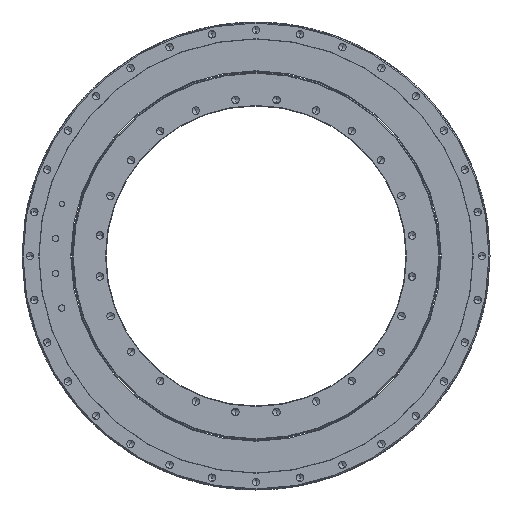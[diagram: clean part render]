
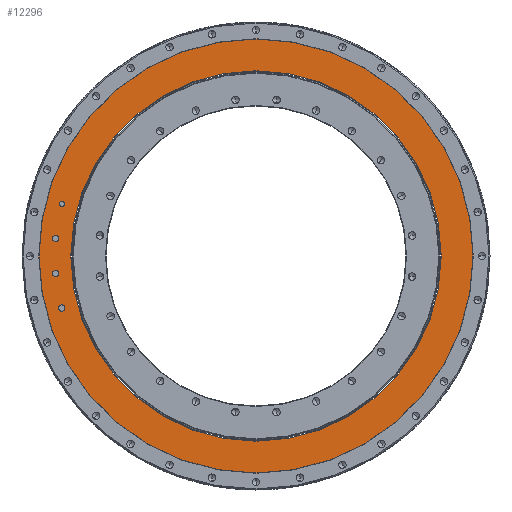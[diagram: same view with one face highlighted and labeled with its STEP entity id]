
A CAD part, left-side view. The second image highlights one B-rep face of the part: STEP entity #12296.
In plain terms, the highlighted planar face has unit normal (-1, 0, 0).
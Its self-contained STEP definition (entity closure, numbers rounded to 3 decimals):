
#11875=CARTESIAN_POINT('',(-110.,0.,0.));
#11876=DIRECTION('',(-1.,0.,0.));
#11877=DIRECTION('',(0.,1.,0.));
#11878=AXIS2_PLACEMENT_3D('',#11875,#11876,#11877);
#11880=CARTESIAN_POINT('',(-110.,0.,0.));
#11881=DIRECTION('',(1.,0.,0.));
#11882=DIRECTION('',(0.,1.,0.));
#11883=AXIS2_PLACEMENT_3D('',#11880,#11881,#11882);
#11885=CARTESIAN_POINT('',(-110.,0.,0.));
#11886=DIRECTION('',(-1.,0.,0.));
#11887=DIRECTION('',(0.,1.,0.));
#11888=AXIS2_PLACEMENT_3D('',#11885,#11886,#11887);
#11890=CARTESIAN_POINT('',(-110.,0.,0.));
#11891=DIRECTION('',(1.,0.,0.));
#11892=DIRECTION('',(0.,1.,0.));
#11893=AXIS2_PLACEMENT_3D('',#11890,#11891,#11892);
#11895=CARTESIAN_POINT('',(-110.,182.608,-48.93));
#11896=DIRECTION('',(-1.,0.,0.));
#11897=DIRECTION('',(0.,0.,1.));
#11898=AXIS2_PLACEMENT_3D('',#11895,#11896,#11897);
#11900=CARTESIAN_POINT('',(-110.,182.608,-48.93));
#11901=DIRECTION('',(-1.,0.,0.));
#11902=DIRECTION('',(0.,0.,-1.));
#11903=AXIS2_PLACEMENT_3D('',#11900,#11901,#11902);
#11905=CARTESIAN_POINT('',(-110.,182.608,48.93));
#11906=DIRECTION('',(-1.,0.,0.));
#11907=DIRECTION('',(0.,0.,1.));
#11908=AXIS2_PLACEMENT_3D('',#11905,#11906,#11907);
#11910=CARTESIAN_POINT('',(-110.,182.608,48.93));
#11911=DIRECTION('',(-1.,0.,0.));
#11912=DIRECTION('',(0.,0.,-1.));
#11913=AXIS2_PLACEMENT_3D('',#11910,#11911,#11912);
#11915=CARTESIAN_POINT('',(-110.,188.331,16.477));
#11916=DIRECTION('',(-1.,0.,0.));
#11917=DIRECTION('',(0.,0.,1.));
#11918=AXIS2_PLACEMENT_3D('',#11915,#11916,#11917);
#11920=CARTESIAN_POINT('',(-110.,188.331,16.477));
#11921=DIRECTION('',(-1.,0.,0.));
#11922=DIRECTION('',(0.,0.,-1.));
#11923=AXIS2_PLACEMENT_3D('',#11920,#11921,#11922);
#11925=CARTESIAN_POINT('',(-110.,188.331,-16.477));
#11926=DIRECTION('',(-1.,0.,0.));
#11927=DIRECTION('',(0.,0.,1.));
#11928=AXIS2_PLACEMENT_3D('',#11925,#11926,#11927);
#11930=CARTESIAN_POINT('',(-110.,188.331,-16.477));
#11931=DIRECTION('',(-1.,0.,0.));
#11932=DIRECTION('',(0.,0.,-1.));
#11933=AXIS2_PLACEMENT_3D('',#11930,#11931,#11932);
#12084=CARTESIAN_POINT('',(-110.,204.,0.));
#12086=VERTEX_POINT('',#12084);
#12087=CARTESIAN_POINT('',(-110.,174.1,0.));
#12089=VERTEX_POINT('',#12087);
#12104=CARTESIAN_POINT('',(-110.,-204.,0.));
#12106=VERTEX_POINT('',#12104);
#12107=CARTESIAN_POINT('',(-110.,-174.1,0.));
#12109=VERTEX_POINT('',#12107);
#12139=CARTESIAN_POINT('',(-110.,182.608,-45.93));
#12140=CARTESIAN_POINT('',(-110.,182.608,-51.93));
#12141=VERTEX_POINT('',#12139);
#12142=VERTEX_POINT('',#12140);
#12143=CARTESIAN_POINT('',(-110.,182.608,51.43));
#12144=CARTESIAN_POINT('',(-110.,182.608,46.43));
#12145=VERTEX_POINT('',#12143);
#12146=VERTEX_POINT('',#12144);
#12147=CARTESIAN_POINT('',(-110.,188.331,19.477));
#12148=CARTESIAN_POINT('',(-110.,188.331,13.477));
#12149=VERTEX_POINT('',#12147);
#12150=VERTEX_POINT('',#12148);
#12151=CARTESIAN_POINT('',(-110.,188.331,-13.477));
#12152=CARTESIAN_POINT('',(-110.,188.331,-19.477));
#12153=VERTEX_POINT('',#12151);
#12154=VERTEX_POINT('',#12152);
#12257=CARTESIAN_POINT('',(-110.,0.,0.));
#12258=DIRECTION('',(1.,0.,0.));
#12259=DIRECTION('',(0.,-1.,0.));
#12260=AXIS2_PLACEMENT_3D('',#12257,#12258,#12259);
#12261=PLANE('',#12260);
#12263=ORIENTED_EDGE('',*,*,#12262,.F.);
#12265=ORIENTED_EDGE('',*,*,#12264,.T.);
#12266=EDGE_LOOP('',(#12263,#12265));
#12267=FACE_OUTER_BOUND('',#12266,.F.);
#12268=ORIENTED_EDGE('',*,*,#12250,.F.);
#12269=ORIENTED_EDGE('',*,*,#12239,.T.);
#12270=EDGE_LOOP('',(#12268,#12269));
#12271=FACE_BOUND('',#12270,.F.);
#12273=ORIENTED_EDGE('',*,*,#12272,.T.);
#12275=ORIENTED_EDGE('',*,*,#12274,.T.);
#12276=EDGE_LOOP('',(#12273,#12275));
#12277=FACE_BOUND('',#12276,.F.);
#12279=ORIENTED_EDGE('',*,*,#12278,.T.);
#12281=ORIENTED_EDGE('',*,*,#12280,.T.);
#12282=EDGE_LOOP('',(#12279,#12281));
#12283=FACE_BOUND('',#12282,.F.);
#12285=ORIENTED_EDGE('',*,*,#12284,.T.);
#12287=ORIENTED_EDGE('',*,*,#12286,.T.);
#12288=EDGE_LOOP('',(#12285,#12287));
#12289=FACE_BOUND('',#12288,.F.);
#12291=ORIENTED_EDGE('',*,*,#12290,.T.);
#12293=ORIENTED_EDGE('',*,*,#12292,.T.);
#12294=EDGE_LOOP('',(#12291,#12293));
#12295=FACE_BOUND('',#12294,.F.);
#12296=ADVANCED_FACE('',(#12267,#12271,#12277,#12283,#12289,#12295),#12261,.F.);
#11879=CIRCLE('',#11878,174.1);
#11884=CIRCLE('',#11883,174.1);
#11889=CIRCLE('',#11888,204.);
#11894=CIRCLE('',#11893,204.);
#11899=CIRCLE('',#11898,3.);
#11904=CIRCLE('',#11903,3.);
#11909=CIRCLE('',#11908,2.5);
#11914=CIRCLE('',#11913,2.5);
#11919=CIRCLE('',#11918,3.);
#11924=CIRCLE('',#11923,3.);
#11929=CIRCLE('',#11928,3.);
#11934=CIRCLE('',#11933,3.);
#12239=EDGE_CURVE('',#12089,#12109,#11879,.T.);
#12250=EDGE_CURVE('',#12089,#12109,#11884,.T.);
#12262=EDGE_CURVE('',#12086,#12106,#11889,.T.);
#12264=EDGE_CURVE('',#12086,#12106,#11894,.T.);
#12272=EDGE_CURVE('',#12141,#12142,#11899,.T.);
#12274=EDGE_CURVE('',#12142,#12141,#11904,.T.);
#12278=EDGE_CURVE('',#12145,#12146,#11909,.T.);
#12280=EDGE_CURVE('',#12146,#12145,#11914,.T.);
#12284=EDGE_CURVE('',#12149,#12150,#11919,.T.);
#12286=EDGE_CURVE('',#12150,#12149,#11924,.T.);
#12290=EDGE_CURVE('',#12153,#12154,#11929,.T.);
#12292=EDGE_CURVE('',#12154,#12153,#11934,.T.);
